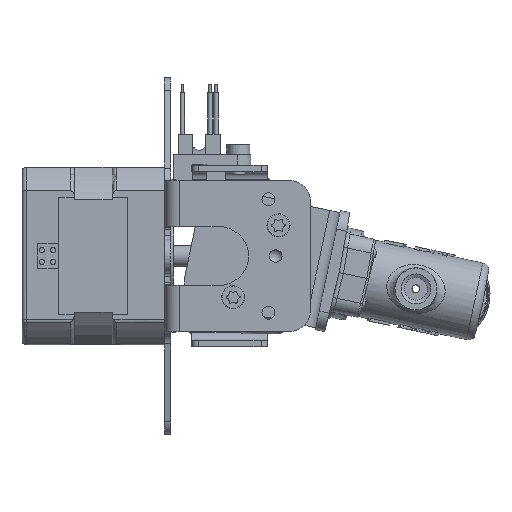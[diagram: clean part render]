
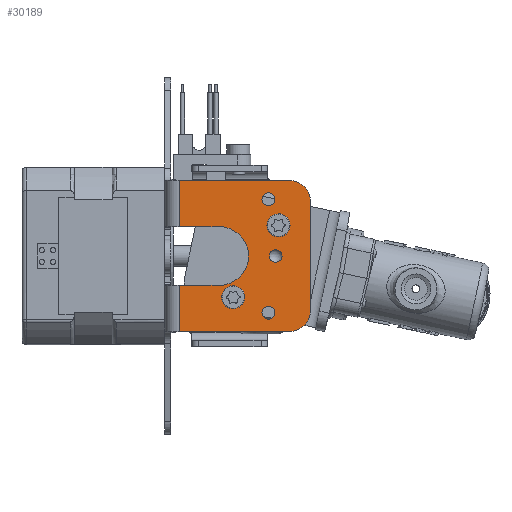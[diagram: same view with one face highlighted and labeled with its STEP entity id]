
A CAD part, front view. The second image highlights one B-rep face of the part: STEP entity #30189.
In plain terms, the highlighted planar face has unit normal (0, -1, 0) as drawn and (1, 0, 0) by its records, which use the part's own axes.
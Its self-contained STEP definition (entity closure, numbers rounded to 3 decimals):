
#152 = CIRCLE ( 'NONE', #25682, 1.491 ) ;
#1093 = VERTEX_POINT ( 'NONE', #24955 ) ;
#1192 = EDGE_CURVE ( 'NONE', #1093, #7735, #9940, .T. ) ;
#1231 = CARTESIAN_POINT ( 'NONE',  ( 22.75, -13.52, 23.2 ) ) ;
#1714 = CARTESIAN_POINT ( 'NONE',  ( 22.75, -13.52, 24.75 ) ) ;
#1794 = VERTEX_POINT ( 'NONE', #24278 ) ;
#1826 = EDGE_LOOP ( 'NONE', ( #22725 ) ) ;
#2076 = FACE_OUTER_BOUND ( 'NONE', #12837, .T. ) ;
#2527 = EDGE_LOOP ( 'NONE', ( #25312 ) ) ;
#3343 = CARTESIAN_POINT ( 'NONE',  ( 22.75, 13.52, 24.75 ) ) ;
#3424 = AXIS2_PLACEMENT_3D ( 'NONE', #7878, #25591, #10418 ) ;
#3667 = CARTESIAN_POINT ( 'NONE',  ( 22.75, 18., -5.487 ) ) ;
#4197 = ORIENTED_EDGE ( 'NONE', *, *, #8280, .F. ) ;
#4251 = DIRECTION ( 'NONE',  ( 0., 0., -1. ) ) ;
#4709 = LINE ( 'NONE', #21162, #24148 ) ;
#4794 = VERTEX_POINT ( 'NONE', #6798 ) ;
#5899 = DIRECTION ( 'NONE',  ( 0., 0., -1. ) ) ;
#5933 = EDGE_CURVE ( 'NONE', #29709, #29709, #8399, .T. ) ;
#6331 = DIRECTION ( 'NONE',  ( 0., -1., 0. ) ) ;
#6578 = ORIENTED_EDGE ( 'NONE', *, *, #17739, .F. ) ;
#6606 = VERTEX_POINT ( 'NONE', #31952 ) ;
#6774 = ORIENTED_EDGE ( 'NONE', *, *, #1192, .T. ) ;
#6798 = CARTESIAN_POINT ( 'NONE',  ( 22.75, -18., 3.5 ) ) ;
#7520 = CARTESIAN_POINT ( 'NONE',  ( 22.75, -18., -5.487 ) ) ;
#7686 = DIRECTION ( 'NONE',  ( -1., 0., 0. ) ) ;
#7735 = VERTEX_POINT ( 'NONE', #19988 ) ;
#7848 = VECTOR ( 'NONE', #29181, 1000. ) ;
#7861 = EDGE_CURVE ( 'NONE', #21392, #21392, #32225, .T. ) ;
#7878 = CARTESIAN_POINT ( 'NONE',  ( 22.75, 13., 29.753 ) ) ;
#8126 = CARTESIAN_POINT ( 'NONE',  ( 22.75, 0., 26.5 ) ) ;
#8182 = VECTOR ( 'NONE', #6331, 1000. ) ;
#8280 = EDGE_CURVE ( 'NONE', #23250, #9186, #30219, .T. ) ;
#8399 = CIRCLE ( 'NONE', #13540, 1.55 ) ;
#8539 = DIRECTION ( 'NONE',  ( 0., 0., 1. ) ) ;
#8613 = DIRECTION ( 'NONE',  ( -1., 0., 0. ) ) ;
#9186 = VERTEX_POINT ( 'NONE', #18638 ) ;
#9438 = CIRCLE ( 'NONE', #30270, 5. ) ;
#9940 = CIRCLE ( 'NONE', #16422, 7. ) ;
#10060 = DIRECTION ( 'NONE',  ( 0., 0., 1. ) ) ;
#10189 = LINE ( 'NONE', #7520, #16095 ) ;
#10418 = DIRECTION ( 'NONE',  ( 0., 0., 1. ) ) ;
#10673 = DIRECTION ( 'NONE',  ( 0., 0., -1. ) ) ;
#10999 = VERTEX_POINT ( 'NONE', #19674 ) ;
#11214 = FACE_BOUND ( 'NONE', #1826, .T. ) ;
#11322 = CARTESIAN_POINT ( 'NONE',  ( 22.75, 13., 34.753 ) ) ;
#11331 = ORIENTED_EDGE ( 'NONE', *, *, #27302, .F. ) ;
#11557 = EDGE_CURVE ( 'NONE', #1794, #6606, #9438, .T. ) ;
#12224 = ORIENTED_EDGE ( 'NONE', *, *, #16622, .T. ) ;
#12253 = CARTESIAN_POINT ( 'NONE',  ( 22.75, 13., -70.75 ) ) ;
#12305 = LINE ( 'NONE', #31979, #25761 ) ;
#12416 = VERTEX_POINT ( 'NONE', #20892 ) ;
#12470 = EDGE_LOOP ( 'NONE', ( #23870 ) ) ;
#12837 = EDGE_LOOP ( 'NONE', ( #22416, #12224, #6774, #15442, #6578, #11331, #4197, #15629, #15169, #12943 ) ) ;
#12943 = ORIENTED_EDGE ( 'NONE', *, *, #24570, .F. ) ;
#13540 = AXIS2_PLACEMENT_3D ( 'NONE', #1714, #19430, #4251 ) ;
#13734 = LINE ( 'NONE', #3667, #19698 ) ;
#13853 = CARTESIAN_POINT ( 'NONE',  ( 22.75, 13., 3.5 ) ) ;
#13977 = CARTESIAN_POINT ( 'NONE',  ( 22.75, 13., 3.5 ) ) ;
#14138 = DIRECTION ( 'NONE',  ( 0., 0., -1. ) ) ;
#14759 = DIRECTION ( 'NONE',  ( 0., 0., -1. ) ) ;
#15169 = ORIENTED_EDGE ( 'NONE', *, *, #11557, .F. ) ;
#15205 = AXIS2_PLACEMENT_3D ( 'NONE', #12253, #29948, #14759 ) ;
#15442 = ORIENTED_EDGE ( 'NONE', *, *, #21975, .T. ) ;
#15537 = FACE_BOUND ( 'NONE', #2527, .T. ) ;
#15629 = ORIENTED_EDGE ( 'NONE', *, *, #24359, .F. ) ;
#16095 = VECTOR ( 'NONE', #10060, 1000. ) ;
#16171 = VERTEX_POINT ( 'NONE', #27230 ) ;
#16335 = FACE_BOUND ( 'NONE', #12470, .T. ) ;
#16422 = AXIS2_PLACEMENT_3D ( 'NONE', #22863, #7686, #25408 ) ;
#16428 = CARTESIAN_POINT ( 'NONE',  ( 22.75, 18., 3.5 ) ) ;
#16534 = VECTOR ( 'NONE', #31673, 1000. ) ;
#16586 = AXIS2_PLACEMENT_3D ( 'NONE', #3343, #21068, #5899 ) ;
#16622 = EDGE_CURVE ( 'NONE', #12416, #1093, #4709, .T. ) ;
#17739 = EDGE_CURVE ( 'NONE', #25741, #10999, #27241, .T. ) ;
#18028 = CARTESIAN_POINT ( 'NONE',  ( 22.75, 13., 34.753 ) ) ;
#18546 = EDGE_CURVE ( 'NONE', #12416, #4794, #26813, .T. ) ;
#18638 = CARTESIAN_POINT ( 'NONE',  ( 22.75, 18., 29.753 ) ) ;
#19430 = DIRECTION ( 'NONE',  ( 1., 0., 0. ) ) ;
#19674 = CARTESIAN_POINT ( 'NONE',  ( 22.75, 7., 3.5 ) ) ;
#19698 = VECTOR ( 'NONE', #23835, 1000. ) ;
#19971 = EDGE_CURVE ( 'NONE', #16171, #16171, #152, .T. ) ;
#19988 = CARTESIAN_POINT ( 'NONE',  ( 22.75, 7., 13.001 ) ) ;
#20892 = CARTESIAN_POINT ( 'NONE',  ( 22.75, -7., 3.5 ) ) ;
#21068 = DIRECTION ( 'NONE',  ( 1., 0., 0. ) ) ;
#21162 = CARTESIAN_POINT ( 'NONE',  ( 22.75, -7., -0.699 ) ) ;
#21392 = VERTEX_POINT ( 'NONE', #31667 ) ;
#21975 = EDGE_CURVE ( 'NONE', #7735, #10999, #12305, .T. ) ;
#22416 = ORIENTED_EDGE ( 'NONE', *, *, #18546, .F. ) ;
#22725 = ORIENTED_EDGE ( 'NONE', *, *, #19971, .F. ) ;
#22863 = CARTESIAN_POINT ( 'NONE',  ( 22.75, 0., 13.001 ) ) ;
#23250 = VERTEX_POINT ( 'NONE', #18028 ) ;
#23789 = CARTESIAN_POINT ( 'NONE',  ( 22.75, -13., 29.753 ) ) ;
#23835 = DIRECTION ( 'NONE',  ( 0., 0., -1. ) ) ;
#23870 = ORIENTED_EDGE ( 'NONE', *, *, #5933, .F. ) ;
#24148 = VECTOR ( 'NONE', #8539, 1000. ) ;
#24278 = CARTESIAN_POINT ( 'NONE',  ( 22.75, -18., 29.753 ) ) ;
#24359 = EDGE_CURVE ( 'NONE', #6606, #23250, #29996, .T. ) ;
#24570 = EDGE_CURVE ( 'NONE', #4794, #1794, #10189, .T. ) ;
#24857 = PLANE ( 'NONE',  #15205 ) ;
#24955 = CARTESIAN_POINT ( 'NONE',  ( 22.75, -7., 13.001 ) ) ;
#25312 = ORIENTED_EDGE ( 'NONE', *, *, #7861, .F. ) ;
#25408 = DIRECTION ( 'NONE',  ( 0., 0., 1. ) ) ;
#25591 = DIRECTION ( 'NONE',  ( -1., 0., 0. ) ) ;
#25682 = AXIS2_PLACEMENT_3D ( 'NONE', #8126, #25830, #10673 ) ;
#25741 = VERTEX_POINT ( 'NONE', #16428 ) ;
#25761 = VECTOR ( 'NONE', #14138, 1000. ) ;
#25830 = DIRECTION ( 'NONE',  ( 1., 0., 0. ) ) ;
#26323 = DIRECTION ( 'NONE',  ( 0., 0., -1. ) ) ;
#26813 = LINE ( 'NONE', #13853, #8182 ) ;
#27230 = CARTESIAN_POINT ( 'NONE',  ( 22.75, 0., 25.009 ) ) ;
#27241 = LINE ( 'NONE', #13977, #7848 ) ;
#27302 = EDGE_CURVE ( 'NONE', #9186, #25741, #13734, .T. ) ;
#29181 = DIRECTION ( 'NONE',  ( 0., -1., 0. ) ) ;
#29709 = VERTEX_POINT ( 'NONE', #1231 ) ;
#29948 = DIRECTION ( 'NONE',  ( 1., 0., 0. ) ) ;
#29996 = LINE ( 'NONE', #11322, #16534 ) ;
#30189 = ADVANCED_FACE ( 'NONE', ( #16335, #15537, #11214, #2076 ), #24857, .T. ) ;
#30219 = CIRCLE ( 'NONE', #3424, 5. ) ;
#30270 = AXIS2_PLACEMENT_3D ( 'NONE', #23789, #8613, #26323 ) ;
#31667 = CARTESIAN_POINT ( 'NONE',  ( 22.75, 13.52, 23.2 ) ) ;
#31673 = DIRECTION ( 'NONE',  ( 0., 1., 0. ) ) ;
#31952 = CARTESIAN_POINT ( 'NONE',  ( 22.75, -13., 34.753 ) ) ;
#31979 = CARTESIAN_POINT ( 'NONE',  ( 22.75, 7., 13.001 ) ) ;
#32225 = CIRCLE ( 'NONE', #16586, 1.55 ) ;
